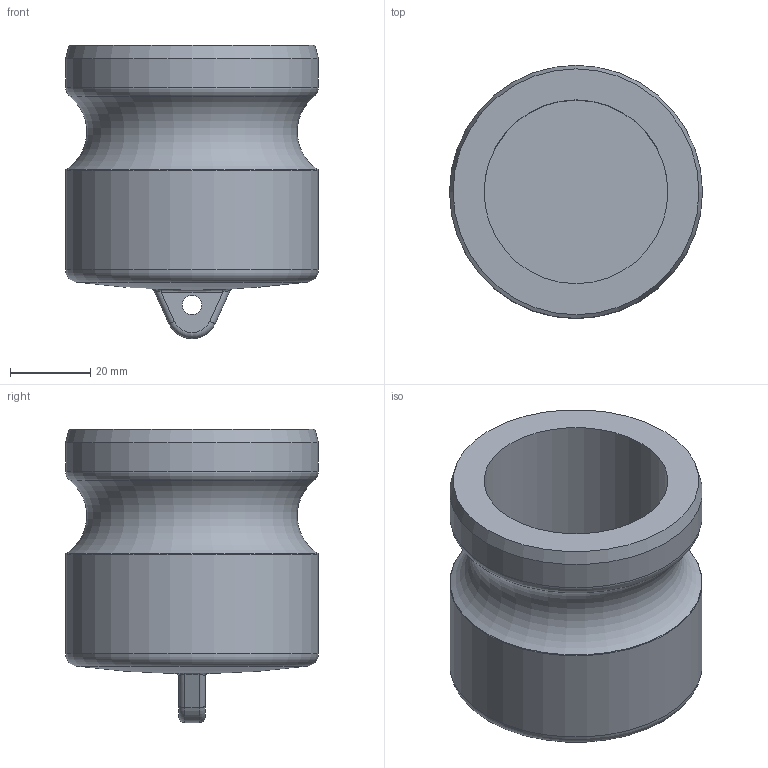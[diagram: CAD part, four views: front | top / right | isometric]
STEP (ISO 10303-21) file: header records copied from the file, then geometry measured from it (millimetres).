
FILE_DESCRIPTION(/* description */ ('Alibre Inc.'),/* implementation_level */ '2;1');
FILE_NAME(/* name */ 'export0',/* time_stamp */ '2016-01-24T11:30:28-05:00',/* author */ (''),/* organization */ (''),/* preprocessor_version */ 'ST-DEVELOPER v14',/* originating_system */ 'Alibre',/* authorisation */ '');
FILE_SCHEMA (('CONFIG_CONTROL_DESIGN'));
Length unit declared in the file: centimetre
Products named in the file (1): ID_1
Bounding box: 63.09 x 63.09 x 73.15 mm (x, y, z)
Volume: 95674.9 mm3; surface area: 25006.1 mm2
Topology: 1 solids, 1 shells, 31 faces, 65 edges, 37 vertices
Faces by surface type: cylinder 9, torus 9, plane 6, bspline 4, cone 2, sphere 1
Full cylindrical faces by diameter (mm): 4.826 x1, 45.847 x1, 63.094 x2
Entity records: 1198 total; most frequent: CARTESIAN_POINT 509, DIRECTION 121, ORIENTED_EDGE 108, AXIS2_PLACEMENT_3D 63, EDGE_CURVE 54, EDGE_LOOP 44, FACE_BOUND 44, VERTEX_POINT 36
